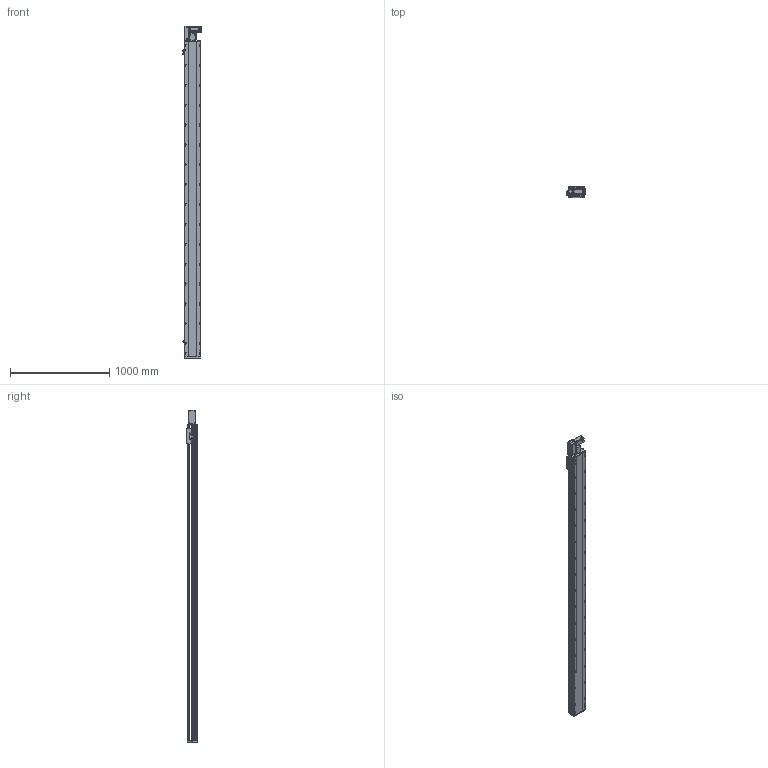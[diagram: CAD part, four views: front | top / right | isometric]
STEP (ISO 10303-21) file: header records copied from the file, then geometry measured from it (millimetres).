
FILE_DESCRIPTION (( 'STEP AP214' ), '1' );
FILE_NAME ('RTB17S-XX-2900-L-M40-C4.STEP', '2025-12-11T06:00:13', ( '' ), ( '' ), 'SwSTEP 2.0', 'SolidWorks 2018', '' );
FILE_SCHEMA (( 'AUTOMOTIVE_DESIGN' ));
Length unit declared in the file: millimetre
Products named in the file (14): RTB17S-L-皮带座装配-400W^RTB17S-XX-XX-L-M40-C4（方程式）; RMP17S-L-014-T20--皮带座^RTB17S-L-皮带座装配-400W_RTB17S-XX-XX-L-M40-C4（方程式）; RTB17-R-011底座^RTB17S-XX-XX-L-M40-C4（方程式）; RTB17S-L-007上盖^RTB17S-XX-XX-L-M40-C4（方程式）; 400W伺服电机^RTB17S-XX-XX-L-M40-C4（方程式）; RTB14-L-008-M20--电机板^RTB17S-L-皮带座装配-400W_RTB17S-XX-XX-L-M40-C4（方程式）; RTB17S-L-004丝杆螺母连接座^RTB17S-XX-XX-L-M40-C4（方程式）; RTB17S-XX-2900-L-M40-C4; RTB14-L-005P--轴承塑胶压盖^RTB17S-L-皮带座装配-400W_RTB17S-XX-XX-L-M40-C4（方程式）; RTB17S-L-001侧面板^RTB17S-XX-XX-L-M40-C4（方程式）; RTB14-L-018P^RTB17S-L-皮带座装配-400W_RTB17S-XX-XX-L-M40-C4（方程式）; RTH13-BL-012感应片外置^RTB17S-XX-XX-L-M40-C4（方程式）; OMRON EE-SX672 传感器^RTB17S-XX-XX-L-M40-C4（方程式）; RTB14-L-017P^RTB17S-L-皮带座装配-400W_RTB17S-XX-XX-L-M40-C4（方程式）
Assembly tree (16 placements, depth 3):
  RTB17S-XX-2900-L-M40-C4
    RTB17-R-011底座^RTB17S-XX-XX-L-M40-C4（方程式）
    RTB17S-L-007上盖^RTB17S-XX-XX-L-M40-C4（方程式）
    OMRON EE-SX672 传感器^RTB17S-XX-XX-L-M40-C4（方程式）  x3
    RTB17S-L-001侧面板^RTB17S-XX-XX-L-M40-C4（方程式）
    400W伺服电机^RTB17S-XX-XX-L-M40-C4（方程式）
    RTB17S-L-004丝杆螺母连接座^RTB17S-XX-XX-L-M40-C4（方程式）
    RTH13-BL-012感应片外置^RTB17S-XX-XX-L-M40-C4（方程式）
    RTB17S-L-皮带座装配-400W^RTB17S-XX-XX-L-M40-C4（方程式）
      RMP17S-L-014-T20--皮带座^RTB17S-L-皮带座装配-400W_RTB17S-XX-XX-L-M40-C4（方程式）
      RTB14-L-005P--轴承塑胶压盖^RTB17S-L-皮带座装配-400W_RTB17S-XX-XX-L-M40-C4（方程式）
      RTB14-L-008-M20--电机板^RTB17S-L-皮带座装配-400W_RTB17S-XX-XX-L-M40-C4（方程式）
      RTB14-L-017P^RTB17S-L-皮带座装配-400W_RTB17S-XX-XX-L-M40-C4（方程式）  x2
      RTB14-L-018P^RTB17S-L-皮带座装配-400W_RTB17S-XX-XX-L-M40-C4（方程式）
Bounding box: 186 x 108 x 3341 mm (x, y, z)
Volume: 27866063.4 mm3; surface area: 3188617.8 mm2
Topology: 15 solids, 15 shells, 2365 faces, 6627 edges, 4329 vertices
Faces by surface type: plane 1088, cylinder 829, bspline 301, cone 139, torus 8
Entity records: 70313 total; most frequent: CARTESIAN_POINT 20032, ORIENTED_EDGE 10098, DIRECTION 9296, EDGE_CURVE 5049, VERTEX_POINT 3317, AXIS2_PLACEMENT_3D 3247, VECTOR 2802, LINE 2802
